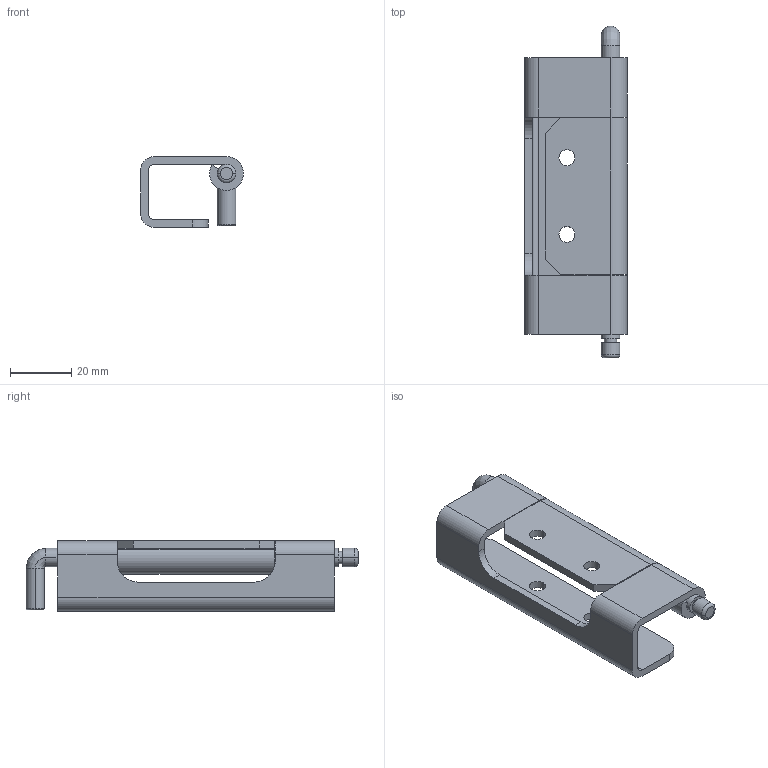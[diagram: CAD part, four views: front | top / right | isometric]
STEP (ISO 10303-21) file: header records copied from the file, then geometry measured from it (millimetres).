
FILE_DESCRIPTION(/* description */ (''),/* implementation_level */ '2;1');
FILE_NAME(/* name */ 'JL283-2',/* time_stamp */ '2024-10-09T16:19:37+08:00',/* author */ (''),/* organization */ (''),/* preprocessor_version */ 'ST-DEVELOPER v19.2',/* originating_system */ 'Rhino 8.5',/* authorisation */ '');
FILE_SCHEMA (('CONFIG_CONTROL_DESIGN'));
Length unit declared in the file: millimetre
Products named in the file (1): Document
Bounding box: 33.5 x 108.1 x 23 mm (x, y, z)
Volume: 20651.1 mm3; surface area: 17934.6 mm2
Topology: 3 solids, 3 shells, 68 faces, 172 edges, 112 vertices
Faces by surface type: cylinder 32, plane 30, bspline 6
Entity records: 2313 total; most frequent: CARTESIAN_POINT 752, ORIENTED_EDGE 344, DIRECTION 210, EDGE_CURVE 172, AXIS2_PLACEMENT_3D 136, VERTEX_POINT 112, EDGE_LOOP 78, TRIMMED_CURVE 72
